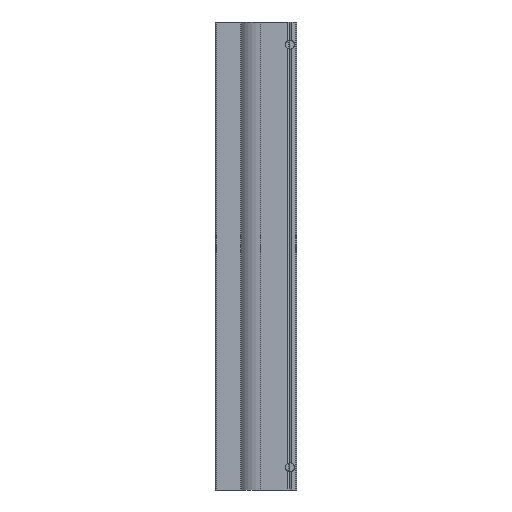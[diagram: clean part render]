
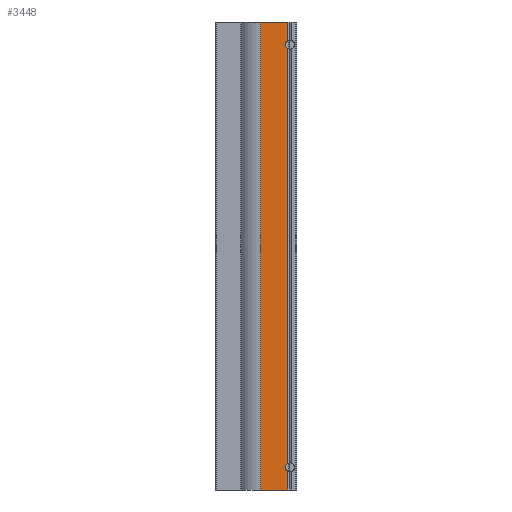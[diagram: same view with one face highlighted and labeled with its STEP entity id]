
A CAD part, left-side view. The second image highlights one B-rep face of the part: STEP entity #3448.
In plain terms, the highlighted planar face has unit normal (-1, 0, 0).
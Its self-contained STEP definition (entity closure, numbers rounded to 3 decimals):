
#57=LINE('',#5351,#249);
#58=LINE('',#5353,#250);
#59=LINE('',#5355,#251);
#60=LINE('',#5357,#252);
#61=LINE('',#5358,#253);
#62=LINE('',#5359,#254);
#249=VECTOR('',#4233,8.197);
#250=VECTOR('',#4234,12.134);
#251=VECTOR('',#4235,207.);
#252=VECTOR('',#4236,12.134);
#253=VECTOR('',#4237,8.197);
#254=VECTOR('',#4238,183.394);
#424=PLANE('',#3708);
#770=FACE_OUTER_BOUND('',#992,.T.);
#992=EDGE_LOOP('',(#2481,#2482,#2483,#2484,#2485,#2486,#2487,#2488));
#1377=CIRCLE('',#3670,2.);
#1384=CIRCLE('',#3687,2.);
#1587=VERTEX_POINT('',#5215);
#1591=VERTEX_POINT('',#5223);
#1603=VERTEX_POINT('',#5258);
#1607=VERTEX_POINT('',#5266);
#1633=VERTEX_POINT('',#5350);
#1634=VERTEX_POINT('',#5352);
#1635=VERTEX_POINT('',#5354);
#1636=VERTEX_POINT('',#5356);
#1947=EDGE_CURVE('',#1587,#1591,#1377,.T.);
#1963=EDGE_CURVE('',#1603,#1607,#1384,.T.);
#2000=EDGE_CURVE('',#1591,#1633,#57,.T.);
#2001=EDGE_CURVE('',#1633,#1634,#58,.T.);
#2002=EDGE_CURVE('',#1635,#1634,#59,.T.);
#2003=EDGE_CURVE('',#1635,#1636,#60,.T.);
#2004=EDGE_CURVE('',#1636,#1603,#61,.T.);
#2005=EDGE_CURVE('',#1607,#1587,#62,.T.);
#2481=ORIENTED_EDGE('',*,*,#1947,.T.);
#2482=ORIENTED_EDGE('',*,*,#2000,.T.);
#2483=ORIENTED_EDGE('',*,*,#2001,.T.);
#2484=ORIENTED_EDGE('',*,*,#2002,.F.);
#2485=ORIENTED_EDGE('',*,*,#2003,.T.);
#2486=ORIENTED_EDGE('',*,*,#2004,.T.);
#2487=ORIENTED_EDGE('',*,*,#1963,.T.);
#2488=ORIENTED_EDGE('',*,*,#2005,.T.);
#3448=ADVANCED_FACE('',(#770),#424,.T.);
#3670=AXIS2_PLACEMENT_3D('',#5225,#4130,#4131);
#3687=AXIS2_PLACEMENT_3D('',#5268,#4164,#4165);
#3708=AXIS2_PLACEMENT_3D('',#5349,#4231,#4232);
#4130=DIRECTION('center_axis',(1.,0.,0.));
#4131=DIRECTION('ref_axis',(0.,0.,1.));
#4164=DIRECTION('center_axis',(1.,0.,0.));
#4165=DIRECTION('ref_axis',(0.,0.,1.));
#4231=DIRECTION('center_axis',(-1.,0.,0.));
#4232=DIRECTION('ref_axis',(0.,0.,1.));
#4233=DIRECTION('',(0.,0.,1.));
#4234=DIRECTION('',(0.,1.,0.));
#4235=DIRECTION('',(0.,0.,1.));
#4236=DIRECTION('',(0.,-1.,0.));
#4237=DIRECTION('',(0.,0.,1.));
#4238=DIRECTION('',(0.,0.,1.));
#5215=CARTESIAN_POINT('',(-36.,3.866,91.697));
#5223=CARTESIAN_POINT('',(-36.,3.866,95.303));
#5225=CARTESIAN_POINT('Origin',(-36.,3.,93.5));
#5258=CARTESIAN_POINT('',(-36.,3.866,-95.303));
#5266=CARTESIAN_POINT('',(-36.,3.866,-91.697));
#5268=CARTESIAN_POINT('Origin',(-36.,3.,-93.5));
#5349=CARTESIAN_POINT('Origin',(-36.,3.866,0.));
#5350=CARTESIAN_POINT('',(-36.,3.866,103.5));
#5351=CARTESIAN_POINT('',(-36.,3.866,0.));
#5352=CARTESIAN_POINT('',(-36.,16.,103.5));
#5353=CARTESIAN_POINT('',(-36.,16.,103.5));
#5354=CARTESIAN_POINT('',(-36.,16.,-103.5));
#5355=CARTESIAN_POINT('',(-36.,16.,0.));
#5356=CARTESIAN_POINT('',(-36.,3.866,-103.5));
#5357=CARTESIAN_POINT('',(-36.,16.,-103.5));
#5358=CARTESIAN_POINT('',(-36.,3.866,0.));
#5359=CARTESIAN_POINT('',(-36.,3.866,0.));
